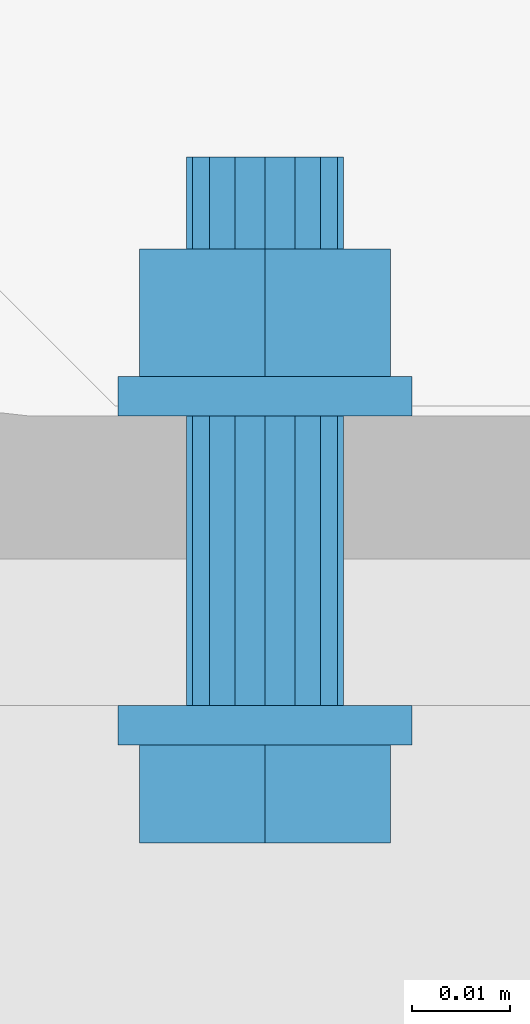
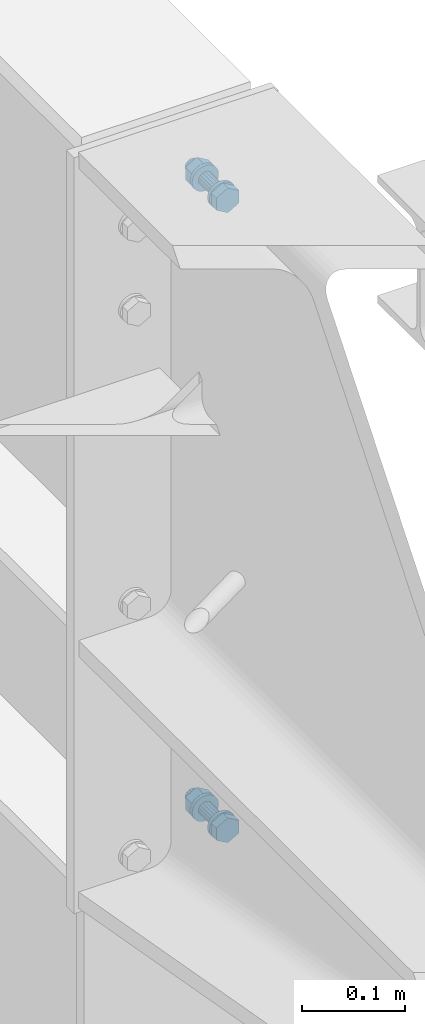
# Not in any storey, part 37 of 50: 2 mechanical fasteners.
"""IFC4 model written with IfcOpenShell, lengths in metres."""

from ifc_helpers import new_model, entity, si_unit, converted_unit, derived_unit, direction, origin, origin_with_axes, place, context, project, spatial, faceted_brep, element, save


model = new_model("IFC4")

# Units and contexts
model_context = context("Model", 3, precision=1e-05, world=origin(), true_north=direction((6.123233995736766e-17, 1.0)))
ifc_project = project(units=[si_unit("LENGTHUNIT", "METRE"), si_unit("AREAUNIT", "SQUARE_METRE"), converted_unit("PLANEANGLEUNIT", "DEGREE", entity("IfcPlaneAngleMeasure", 0.017453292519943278), si_unit("PLANEANGLEUNIT", "RADIAN"), dimensions=[0, 0, 0, 0, 0, 0, 0]), si_unit("VOLUMEUNIT", "CUBIC_METRE"), derived_unit("THERMALTRANSMITTANCEUNIT", [(si_unit("MASSUNIT", "GRAM", prefix="KILO"), 1), (si_unit("THERMODYNAMICTEMPERATUREUNIT", "KELVIN"), -1), (si_unit("TIMEUNIT", "SECOND"), -3)])], contexts=[model_context])

# Site
site_placement = place(None, origin())
site = spatial("IfcSite", under=ifc_project, at=site_placement, Name="Default", CompositionType="ELEMENT")

# Mechanical fasteners
mechanical_fastener_1_placement = place(site_placement, origin_with_axes())
element("IfcMechanicalFastener", 1, at=mechanical_fastener_1_placement, inside=site, ObjectType="Bolt#1", NominalDiameter=0.016, NominalLength=0.06, context=model_context, shape_type="Brep", body=[
    faceted_brep([(13.225144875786, 17.685767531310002, 5.895), (13.225144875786, 17.68976753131, 5.895), (13.22543309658, 17.68976753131, 5.89207364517), (13.22543309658, 17.685767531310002, 5.89207364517), (13.226286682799, 17.68976753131, 5.889259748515), (13.226286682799, 17.685767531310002, 5.889259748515), (13.227672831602, 17.68976753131, 5.886666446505), (13.227672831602, 17.685767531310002, 5.886666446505), (13.229538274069, 17.68976753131, 5.884393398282), (13.229538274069, 17.685767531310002, 5.884393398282), (13.231811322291, 17.68976753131, 5.882527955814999), (13.231811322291, 17.685767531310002, 5.882527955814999), (13.234404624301, 17.68976753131, 5.881141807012), (13.234404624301, 17.685767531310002, 5.881141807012), (13.237218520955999, 17.68976753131, 5.880288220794), (13.237218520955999, 17.685767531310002, 5.880288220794), (13.240144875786, 17.68976753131, 5.88), (13.240144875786, 17.685767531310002, 5.88), (13.243071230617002, 17.68976753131, 5.880288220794), (13.243071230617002, 17.685767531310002, 5.880288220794), (13.245885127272, 17.68976753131, 5.881141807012), (13.245885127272, 17.685767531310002, 5.881141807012), (13.248478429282, 17.68976753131, 5.882527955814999), (13.248478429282, 17.685767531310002, 5.882527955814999), (13.250751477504, 17.68976753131, 5.884393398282), (13.250751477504, 17.685767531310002, 5.884393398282), (13.252616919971, 17.68976753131, 5.886666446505), (13.252616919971, 17.685767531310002, 5.886666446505), (13.254003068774, 17.68976753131, 5.889259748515), (13.254003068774, 17.685767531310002, 5.889259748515), (13.254856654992, 17.68976753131, 5.89207364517), (13.254856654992, 17.685767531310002, 5.89207364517), (13.255144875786, 17.68976753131, 5.895), (13.255144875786, 17.685767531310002, 5.895), (13.254856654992, 17.68976753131, 5.897926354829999), (13.254856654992, 17.685767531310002, 5.897926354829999), (13.254003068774, 17.68976753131, 5.900740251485), (13.254003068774, 17.685767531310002, 5.900740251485), (13.252616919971, 17.68976753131, 5.903333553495), (13.252616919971, 17.685767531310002, 5.903333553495), (13.250751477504, 17.68976753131, 5.9056066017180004), (13.250751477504, 17.685767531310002, 5.9056066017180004), (13.248478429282, 17.68976753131, 5.907472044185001), (13.248478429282, 17.685767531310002, 5.907472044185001), (13.245885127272, 17.68976753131, 5.908858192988), (13.245885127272, 17.685767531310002, 5.908858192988), (13.243071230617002, 17.68976753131, 5.909711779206), (13.243071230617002, 17.685767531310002, 5.909711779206), (13.240144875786, 17.68976753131, 5.91), (13.240144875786, 17.685767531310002, 5.91), (13.237218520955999, 17.68976753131, 5.909711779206), (13.237218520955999, 17.685767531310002, 5.909711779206), (13.234404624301, 17.68976753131, 5.908858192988), (13.234404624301, 17.685767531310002, 5.908858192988), (13.231811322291, 17.68976753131, 5.907472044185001), (13.231811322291, 17.685767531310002, 5.907472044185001), (13.229538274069, 17.68976753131, 5.9056066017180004), (13.229538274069, 17.685767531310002, 5.9056066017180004), (13.227672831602, 17.68976753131, 5.903333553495), (13.227672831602, 17.685767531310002, 5.903333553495), (13.226286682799, 17.68976753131, 5.900740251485), (13.226286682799, 17.685767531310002, 5.900740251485), (13.22543309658, 17.68976753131, 5.897926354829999), (13.22543309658, 17.685767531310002, 5.897926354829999)], [[[0, 1, 2, 3]], [[3, 2, 4, 5]], [[5, 4, 6, 7]], [[7, 6, 8, 9]], [[9, 8, 10, 11]], [[11, 10, 12, 13]], [[13, 12, 14, 15]], [[15, 14, 16, 17]], [[17, 16, 18, 19]], [[19, 18, 20, 21]], [[21, 20, 22, 23]], [[23, 22, 24, 25]], [[25, 24, 26, 27]], [[27, 26, 28, 29]], [[29, 28, 30, 31]], [[31, 30, 32, 33]], [[33, 32, 34, 35]], [[35, 34, 36, 37]], [[37, 36, 38, 39]], [[39, 38, 40, 41]], [[41, 40, 42, 43]], [[43, 42, 44, 45]], [[45, 44, 46, 47]], [[47, 46, 48, 49]], [[49, 48, 50, 51]], [[51, 50, 52, 53]], [[53, 52, 54, 55]], [[55, 54, 56, 57]], [[57, 56, 58, 59]], [[59, 58, 60, 61]], [[61, 60, 62, 63]], [[63, 62, 1, 0]], [[0, 3, 5, 7, 9, 11, 13, 15, 17, 19, 21, 23, 25, 27, 29, 31, 33, 35, 37, 39, 41, 43, 45, 47, 49, 51, 53, 55, 57, 59, 61, 63]], [[1, 62, 60, 58, 56, 54, 52, 50, 48, 46, 44, 42, 40, 38, 36, 34, 32, 30, 28, 26, 24, 22, 20, 18, 16, 14, 12, 10, 8, 6, 4, 2]]]),
    faceted_brep([(13.252944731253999, 17.685767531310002, 5.88761), (13.252944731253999, 17.67576753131, 5.88761), (13.240144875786, 17.67576753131, 5.8802200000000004), (13.240144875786, 17.685767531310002, 5.8802200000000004), (13.227345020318, 17.67576753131, 5.88761), (13.227345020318, 17.685767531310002, 5.88761), (13.227345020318, 17.67576753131, 5.9023900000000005), (13.227345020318, 17.685767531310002, 5.9023900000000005), (13.240144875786, 17.67576753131, 5.90978), (13.240144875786, 17.685767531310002, 5.90978), (13.252944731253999, 17.67576753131, 5.9023900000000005), (13.252944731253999, 17.685767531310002, 5.9023900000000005)], [[[0, 1, 2, 3]], [[3, 2, 4, 5]], [[5, 4, 6, 7]], [[7, 6, 8, 9]], [[9, 8, 10, 11]], [[11, 10, 1, 0]], [[4, 2, 1, 10, 8, 6]], [[0, 3, 5, 7, 9, 11]]]),
    faceted_brep([(13.232144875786, 17.68976753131, 5.895), (13.232144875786, 17.71936753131, 5.895), (13.232753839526, 17.71936753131, 5.891938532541), (13.232753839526, 17.68976753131, 5.891938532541), (13.234488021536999, 17.71936753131, 5.889343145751), (13.234488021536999, 17.68976753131, 5.889343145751), (13.237083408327, 17.71936753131, 5.88760896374), (13.237083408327, 17.68976753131, 5.88760896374), (13.240144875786, 17.71936753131, 5.887), (13.240144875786, 17.68976753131, 5.887), (13.243206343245, 17.71936753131, 5.88760896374), (13.243206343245, 17.68976753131, 5.88760896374), (13.245801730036, 17.71936753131, 5.889343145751), (13.245801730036, 17.68976753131, 5.889343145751), (13.247535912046, 17.71936753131, 5.891938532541), (13.247535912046, 17.68976753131, 5.891938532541), (13.248144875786, 17.71936753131, 5.895), (13.248144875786, 17.68976753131, 5.895), (13.247535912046, 17.71936753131, 5.898061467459), (13.247535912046, 17.68976753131, 5.898061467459), (13.245801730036, 17.71936753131, 5.900656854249), (13.245801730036, 17.68976753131, 5.900656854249), (13.243206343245, 17.71936753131, 5.90239103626), (13.243206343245, 17.68976753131, 5.90239103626), (13.240144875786, 17.71936753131, 5.903), (13.240144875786, 17.68976753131, 5.903), (13.237083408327, 17.71936753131, 5.90239103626), (13.237083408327, 17.68976753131, 5.90239103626), (13.234488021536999, 17.71936753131, 5.900656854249), (13.234488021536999, 17.68976753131, 5.900656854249), (13.232753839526, 17.71936753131, 5.898061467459), (13.232753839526, 17.68976753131, 5.898061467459)], [[[0, 1, 2, 3]], [[3, 2, 4, 5]], [[5, 4, 6, 7]], [[7, 6, 8, 9]], [[9, 8, 10, 11]], [[11, 10, 12, 13]], [[13, 12, 14, 15]], [[15, 14, 16, 17]], [[17, 16, 18, 19]], [[19, 18, 20, 21]], [[21, 20, 22, 23]], [[23, 22, 24, 25]], [[25, 24, 26, 27]], [[27, 26, 28, 29]], [[29, 28, 30, 31]], [[31, 30, 1, 0]], [[0, 3, 5, 7, 9, 11, 13, 15, 17, 19, 21, 23, 25, 27, 29, 31]], [[1, 30, 28, 26, 24, 22, 20, 18, 16, 14, 12, 10, 8, 6, 4, 2]]]),
    faceted_brep([(13.225144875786, 17.71936753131, 5.895), (13.225144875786, 17.72336753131, 5.895), (13.22543309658, 17.72336753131, 5.89207364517), (13.22543309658, 17.71936753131, 5.89207364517), (13.226286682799, 17.72336753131, 5.889259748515), (13.226286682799, 17.71936753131, 5.889259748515), (13.227672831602, 17.72336753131, 5.886666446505), (13.227672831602, 17.71936753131, 5.886666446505), (13.229538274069, 17.72336753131, 5.884393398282), (13.229538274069, 17.71936753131, 5.884393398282), (13.231811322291, 17.72336753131, 5.882527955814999), (13.231811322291, 17.71936753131, 5.882527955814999), (13.234404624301, 17.72336753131, 5.881141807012), (13.234404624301, 17.71936753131, 5.881141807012), (13.237218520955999, 17.72336753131, 5.880288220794), (13.237218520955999, 17.71936753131, 5.880288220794), (13.240144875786, 17.72336753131, 5.88), (13.240144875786, 17.71936753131, 5.88), (13.243071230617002, 17.72336753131, 5.880288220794), (13.243071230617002, 17.71936753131, 5.880288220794), (13.245885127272, 17.72336753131, 5.881141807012), (13.245885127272, 17.71936753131, 5.881141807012), (13.248478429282, 17.72336753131, 5.882527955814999), (13.248478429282, 17.71936753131, 5.882527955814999), (13.250751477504, 17.72336753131, 5.884393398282), (13.250751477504, 17.71936753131, 5.884393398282), (13.252616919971, 17.72336753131, 5.886666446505), (13.252616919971, 17.71936753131, 5.886666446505), (13.254003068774, 17.72336753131, 5.889259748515), (13.254003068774, 17.71936753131, 5.889259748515), (13.254856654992, 17.72336753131, 5.89207364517), (13.254856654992, 17.71936753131, 5.89207364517), (13.255144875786, 17.72336753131, 5.895), (13.255144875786, 17.71936753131, 5.895), (13.254856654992, 17.72336753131, 5.897926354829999), (13.254856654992, 17.71936753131, 5.897926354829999), (13.254003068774, 17.72336753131, 5.900740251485), (13.254003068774, 17.71936753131, 5.900740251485), (13.252616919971, 17.72336753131, 5.903333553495), (13.252616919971, 17.71936753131, 5.903333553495), (13.250751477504, 17.72336753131, 5.9056066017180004), (13.250751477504, 17.71936753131, 5.9056066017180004), (13.248478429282, 17.72336753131, 5.907472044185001), (13.248478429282, 17.71936753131, 5.907472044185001), (13.245885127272, 17.72336753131, 5.908858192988), (13.245885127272, 17.71936753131, 5.908858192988), (13.243071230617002, 17.72336753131, 5.909711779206), (13.243071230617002, 17.71936753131, 5.909711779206), (13.240144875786, 17.72336753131, 5.91), (13.240144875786, 17.71936753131, 5.91), (13.237218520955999, 17.72336753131, 5.909711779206), (13.237218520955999, 17.71936753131, 5.909711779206), (13.234404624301, 17.72336753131, 5.908858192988), (13.234404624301, 17.71936753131, 5.908858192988), (13.231811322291, 17.72336753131, 5.907472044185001), (13.231811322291, 17.71936753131, 5.907472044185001), (13.229538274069, 17.72336753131, 5.9056066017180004), (13.229538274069, 17.71936753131, 5.9056066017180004), (13.227672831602, 17.72336753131, 5.903333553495), (13.227672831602, 17.71936753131, 5.903333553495), (13.226286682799, 17.72336753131, 5.900740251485), (13.226286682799, 17.71936753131, 5.900740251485), (13.22543309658, 17.72336753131, 5.897926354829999), (13.22543309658, 17.71936753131, 5.897926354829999)], [[[0, 1, 2, 3]], [[3, 2, 4, 5]], [[5, 4, 6, 7]], [[7, 6, 8, 9]], [[9, 8, 10, 11]], [[11, 10, 12, 13]], [[13, 12, 14, 15]], [[15, 14, 16, 17]], [[17, 16, 18, 19]], [[19, 18, 20, 21]], [[21, 20, 22, 23]], [[23, 22, 24, 25]], [[25, 24, 26, 27]], [[27, 26, 28, 29]], [[29, 28, 30, 31]], [[31, 30, 32, 33]], [[33, 32, 34, 35]], [[35, 34, 36, 37]], [[37, 36, 38, 39]], [[39, 38, 40, 41]], [[41, 40, 42, 43]], [[43, 42, 44, 45]], [[45, 44, 46, 47]], [[47, 46, 48, 49]], [[49, 48, 50, 51]], [[51, 50, 52, 53]], [[53, 52, 54, 55]], [[55, 54, 56, 57]], [[57, 56, 58, 59]], [[59, 58, 60, 61]], [[61, 60, 62, 63]], [[63, 62, 1, 0]], [[0, 3, 5, 7, 9, 11, 13, 15, 17, 19, 21, 23, 25, 27, 29, 31, 33, 35, 37, 39, 41, 43, 45, 47, 49, 51, 53, 55, 57, 59, 61, 63]], [[1, 62, 60, 58, 56, 54, 52, 50, 48, 46, 44, 42, 40, 38, 36, 34, 32, 30, 28, 26, 24, 22, 20, 18, 16, 14, 12, 10, 8, 6, 4, 2]]]),
    faceted_brep([(13.252944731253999, 17.736367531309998, 5.88761), (13.252944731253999, 17.72336753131, 5.88761), (13.240144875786, 17.72336753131, 5.8802200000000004), (13.240144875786, 17.736367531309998, 5.8802200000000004), (13.227345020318, 17.72336753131, 5.88761), (13.227345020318, 17.736367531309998, 5.88761), (13.227345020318, 17.72336753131, 5.9023900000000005), (13.227345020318, 17.736367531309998, 5.9023900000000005), (13.240144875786, 17.72336753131, 5.90978), (13.240144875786, 17.736367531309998, 5.90978), (13.252944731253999, 17.72336753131, 5.9023900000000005), (13.252944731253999, 17.736367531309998, 5.9023900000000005)], [[[0, 1, 2, 3]], [[3, 2, 4, 5]], [[5, 4, 6, 7]], [[7, 6, 8, 9]], [[9, 8, 10, 11]], [[11, 10, 1, 0]], [[4, 2, 1, 10, 8, 6]], [[0, 3, 5, 7, 9, 11]]]),
    faceted_brep([(13.232144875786, 17.736367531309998, 5.895), (13.232144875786, 17.74576753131, 5.895), (13.232753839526, 17.74576753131, 5.891938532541), (13.232753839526, 17.736367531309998, 5.891938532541), (13.234488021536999, 17.74576753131, 5.889343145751), (13.234488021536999, 17.736367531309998, 5.889343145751), (13.237083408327, 17.74576753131, 5.88760896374), (13.237083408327, 17.736367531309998, 5.88760896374), (13.240144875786, 17.74576753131, 5.887), (13.240144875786, 17.736367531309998, 5.887), (13.243206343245, 17.74576753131, 5.88760896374), (13.243206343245, 17.736367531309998, 5.88760896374), (13.245801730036, 17.74576753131, 5.889343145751), (13.245801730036, 17.736367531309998, 5.889343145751), (13.247535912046, 17.74576753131, 5.891938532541), (13.247535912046, 17.736367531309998, 5.891938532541), (13.248144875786, 17.74576753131, 5.895), (13.248144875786, 17.736367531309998, 5.895), (13.247535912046, 17.74576753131, 5.898061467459), (13.247535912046, 17.736367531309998, 5.898061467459), (13.245801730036, 17.74576753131, 5.900656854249), (13.245801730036, 17.736367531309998, 5.900656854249), (13.243206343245, 17.74576753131, 5.90239103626), (13.243206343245, 17.736367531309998, 5.90239103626), (13.240144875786, 17.74576753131, 5.903), (13.240144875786, 17.736367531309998, 5.903), (13.237083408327, 17.74576753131, 5.90239103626), (13.237083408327, 17.736367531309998, 5.90239103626), (13.234488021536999, 17.74576753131, 5.900656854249), (13.234488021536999, 17.736367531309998, 5.900656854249), (13.232753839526, 17.74576753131, 5.898061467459), (13.232753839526, 17.736367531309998, 5.898061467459)], [[[0, 1, 2, 3]], [[3, 2, 4, 5]], [[5, 4, 6, 7]], [[7, 6, 8, 9]], [[9, 8, 10, 11]], [[11, 10, 12, 13]], [[13, 12, 14, 15]], [[15, 14, 16, 17]], [[17, 16, 18, 19]], [[19, 18, 20, 21]], [[21, 20, 22, 23]], [[23, 22, 24, 25]], [[25, 24, 26, 27]], [[27, 26, 28, 29]], [[29, 28, 30, 31]], [[31, 30, 1, 0]], [[0, 3, 5, 7, 9, 11, 13, 15, 17, 19, 21, 23, 25, 27, 29, 31]], [[1, 30, 28, 26, 24, 22, 20, 18, 16, 14, 12, 10, 8, 6, 4, 2]]]),
])
mechanical_fastener_2_placement = place(site_placement, origin_with_axes())
element("IfcMechanicalFastener", 2, at=mechanical_fastener_2_placement, inside=site, ObjectType="Bolt#2", NominalDiameter=0.016, NominalLength=0.06, context=model_context, shape_type="Brep", body=[
    faceted_brep([(13.225144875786, 17.685767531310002, 5.145), (13.225144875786, 17.68976753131, 5.145), (13.22543309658, 17.68976753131, 5.14207364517), (13.22543309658, 17.685767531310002, 5.14207364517), (13.226286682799, 17.68976753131, 5.139259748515), (13.226286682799, 17.685767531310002, 5.139259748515), (13.227672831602, 17.68976753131, 5.136666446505), (13.227672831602, 17.685767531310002, 5.136666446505), (13.229538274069, 17.68976753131, 5.134393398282), (13.229538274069, 17.685767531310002, 5.134393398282), (13.231811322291, 17.68976753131, 5.132527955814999), (13.231811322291, 17.685767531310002, 5.132527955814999), (13.234404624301, 17.68976753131, 5.131141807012), (13.234404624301, 17.685767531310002, 5.131141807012), (13.237218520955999, 17.68976753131, 5.130288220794), (13.237218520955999, 17.685767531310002, 5.130288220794), (13.240144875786, 17.68976753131, 5.13), (13.240144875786, 17.685767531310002, 5.13), (13.243071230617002, 17.68976753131, 5.130288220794), (13.243071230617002, 17.685767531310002, 5.130288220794), (13.245885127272, 17.68976753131, 5.131141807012), (13.245885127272, 17.685767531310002, 5.131141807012), (13.248478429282, 17.68976753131, 5.132527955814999), (13.248478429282, 17.685767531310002, 5.132527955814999), (13.250751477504, 17.68976753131, 5.134393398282), (13.250751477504, 17.685767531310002, 5.134393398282), (13.252616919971, 17.68976753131, 5.136666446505), (13.252616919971, 17.685767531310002, 5.136666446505), (13.254003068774, 17.68976753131, 5.139259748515), (13.254003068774, 17.685767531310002, 5.139259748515), (13.254856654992, 17.68976753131, 5.14207364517), (13.254856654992, 17.685767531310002, 5.14207364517), (13.255144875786, 17.68976753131, 5.145), (13.255144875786, 17.685767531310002, 5.145), (13.254856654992, 17.68976753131, 5.147926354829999), (13.254856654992, 17.685767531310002, 5.147926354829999), (13.254003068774, 17.68976753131, 5.150740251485), (13.254003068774, 17.685767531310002, 5.150740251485), (13.252616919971, 17.68976753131, 5.153333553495), (13.252616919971, 17.685767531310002, 5.153333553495), (13.250751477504, 17.68976753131, 5.1556066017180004), (13.250751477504, 17.685767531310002, 5.1556066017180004), (13.248478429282, 17.68976753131, 5.157472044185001), (13.248478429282, 17.685767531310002, 5.157472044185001), (13.245885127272, 17.68976753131, 5.158858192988), (13.245885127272, 17.685767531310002, 5.158858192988), (13.243071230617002, 17.68976753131, 5.159711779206), (13.243071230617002, 17.685767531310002, 5.159711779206), (13.240144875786, 17.68976753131, 5.16), (13.240144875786, 17.685767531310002, 5.16), (13.237218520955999, 17.68976753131, 5.159711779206), (13.237218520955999, 17.685767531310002, 5.159711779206), (13.234404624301, 17.68976753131, 5.158858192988), (13.234404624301, 17.685767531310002, 5.158858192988), (13.231811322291, 17.68976753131, 5.157472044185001), (13.231811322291, 17.685767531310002, 5.157472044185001), (13.229538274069, 17.68976753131, 5.1556066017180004), (13.229538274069, 17.685767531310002, 5.1556066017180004), (13.227672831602, 17.68976753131, 5.153333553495), (13.227672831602, 17.685767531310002, 5.153333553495), (13.226286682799, 17.68976753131, 5.150740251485), (13.226286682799, 17.685767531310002, 5.150740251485), (13.22543309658, 17.68976753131, 5.147926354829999), (13.22543309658, 17.685767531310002, 5.147926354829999)], [[[0, 1, 2, 3]], [[3, 2, 4, 5]], [[5, 4, 6, 7]], [[7, 6, 8, 9]], [[9, 8, 10, 11]], [[11, 10, 12, 13]], [[13, 12, 14, 15]], [[15, 14, 16, 17]], [[17, 16, 18, 19]], [[19, 18, 20, 21]], [[21, 20, 22, 23]], [[23, 22, 24, 25]], [[25, 24, 26, 27]], [[27, 26, 28, 29]], [[29, 28, 30, 31]], [[31, 30, 32, 33]], [[33, 32, 34, 35]], [[35, 34, 36, 37]], [[37, 36, 38, 39]], [[39, 38, 40, 41]], [[41, 40, 42, 43]], [[43, 42, 44, 45]], [[45, 44, 46, 47]], [[47, 46, 48, 49]], [[49, 48, 50, 51]], [[51, 50, 52, 53]], [[53, 52, 54, 55]], [[55, 54, 56, 57]], [[57, 56, 58, 59]], [[59, 58, 60, 61]], [[61, 60, 62, 63]], [[63, 62, 1, 0]], [[0, 3, 5, 7, 9, 11, 13, 15, 17, 19, 21, 23, 25, 27, 29, 31, 33, 35, 37, 39, 41, 43, 45, 47, 49, 51, 53, 55, 57, 59, 61, 63]], [[1, 62, 60, 58, 56, 54, 52, 50, 48, 46, 44, 42, 40, 38, 36, 34, 32, 30, 28, 26, 24, 22, 20, 18, 16, 14, 12, 10, 8, 6, 4, 2]]]),
    faceted_brep([(13.252944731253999, 17.685767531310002, 5.13761), (13.252944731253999, 17.67576753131, 5.13761), (13.240144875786, 17.67576753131, 5.1302200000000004), (13.240144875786, 17.685767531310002, 5.1302200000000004), (13.227345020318, 17.67576753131, 5.13761), (13.227345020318, 17.685767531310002, 5.13761), (13.227345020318, 17.67576753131, 5.1523900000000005), (13.227345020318, 17.685767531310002, 5.1523900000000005), (13.240144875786, 17.67576753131, 5.15978), (13.240144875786, 17.685767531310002, 5.15978), (13.252944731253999, 17.67576753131, 5.1523900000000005), (13.252944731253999, 17.685767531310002, 5.1523900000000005)], [[[0, 1, 2, 3]], [[3, 2, 4, 5]], [[5, 4, 6, 7]], [[7, 6, 8, 9]], [[9, 8, 10, 11]], [[11, 10, 1, 0]], [[4, 2, 1, 10, 8, 6]], [[0, 3, 5, 7, 9, 11]]]),
    faceted_brep([(13.232144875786, 17.68976753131, 5.145), (13.232144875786, 17.71936753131, 5.145), (13.232753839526, 17.71936753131, 5.141938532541), (13.232753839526, 17.68976753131, 5.141938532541), (13.234488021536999, 17.71936753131, 5.139343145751), (13.234488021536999, 17.68976753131, 5.139343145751), (13.237083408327, 17.71936753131, 5.13760896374), (13.237083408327, 17.68976753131, 5.13760896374), (13.240144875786, 17.71936753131, 5.137), (13.240144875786, 17.68976753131, 5.137), (13.243206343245, 17.71936753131, 5.13760896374), (13.243206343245, 17.68976753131, 5.13760896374), (13.245801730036, 17.71936753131, 5.139343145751), (13.245801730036, 17.68976753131, 5.139343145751), (13.247535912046, 17.71936753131, 5.141938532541), (13.247535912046, 17.68976753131, 5.141938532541), (13.248144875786, 17.71936753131, 5.145), (13.248144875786, 17.68976753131, 5.145), (13.247535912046, 17.71936753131, 5.148061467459), (13.247535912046, 17.68976753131, 5.148061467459), (13.245801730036, 17.71936753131, 5.150656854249), (13.245801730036, 17.68976753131, 5.150656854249), (13.243206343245, 17.71936753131, 5.15239103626), (13.243206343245, 17.68976753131, 5.15239103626), (13.240144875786, 17.71936753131, 5.153), (13.240144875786, 17.68976753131, 5.153), (13.237083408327, 17.71936753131, 5.15239103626), (13.237083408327, 17.68976753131, 5.15239103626), (13.234488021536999, 17.71936753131, 5.150656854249), (13.234488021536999, 17.68976753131, 5.150656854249), (13.232753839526, 17.71936753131, 5.148061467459), (13.232753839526, 17.68976753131, 5.148061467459)], [[[0, 1, 2, 3]], [[3, 2, 4, 5]], [[5, 4, 6, 7]], [[7, 6, 8, 9]], [[9, 8, 10, 11]], [[11, 10, 12, 13]], [[13, 12, 14, 15]], [[15, 14, 16, 17]], [[17, 16, 18, 19]], [[19, 18, 20, 21]], [[21, 20, 22, 23]], [[23, 22, 24, 25]], [[25, 24, 26, 27]], [[27, 26, 28, 29]], [[29, 28, 30, 31]], [[31, 30, 1, 0]], [[0, 3, 5, 7, 9, 11, 13, 15, 17, 19, 21, 23, 25, 27, 29, 31]], [[1, 30, 28, 26, 24, 22, 20, 18, 16, 14, 12, 10, 8, 6, 4, 2]]]),
    faceted_brep([(13.225144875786, 17.71936753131, 5.145), (13.225144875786, 17.72336753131, 5.145), (13.22543309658, 17.72336753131, 5.14207364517), (13.22543309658, 17.71936753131, 5.14207364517), (13.226286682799, 17.72336753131, 5.139259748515), (13.226286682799, 17.71936753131, 5.139259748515), (13.227672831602, 17.72336753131, 5.136666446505), (13.227672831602, 17.71936753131, 5.136666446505), (13.229538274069, 17.72336753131, 5.134393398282), (13.229538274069, 17.71936753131, 5.134393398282), (13.231811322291, 17.72336753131, 5.132527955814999), (13.231811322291, 17.71936753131, 5.132527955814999), (13.234404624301, 17.72336753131, 5.131141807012), (13.234404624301, 17.71936753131, 5.131141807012), (13.237218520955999, 17.72336753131, 5.130288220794), (13.237218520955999, 17.71936753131, 5.130288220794), (13.240144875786, 17.72336753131, 5.13), (13.240144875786, 17.71936753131, 5.13), (13.243071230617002, 17.72336753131, 5.130288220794), (13.243071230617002, 17.71936753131, 5.130288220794), (13.245885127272, 17.72336753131, 5.131141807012), (13.245885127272, 17.71936753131, 5.131141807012), (13.248478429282, 17.72336753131, 5.132527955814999), (13.248478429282, 17.71936753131, 5.132527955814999), (13.250751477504, 17.72336753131, 5.134393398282), (13.250751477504, 17.71936753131, 5.134393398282), (13.252616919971, 17.72336753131, 5.136666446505), (13.252616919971, 17.71936753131, 5.136666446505), (13.254003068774, 17.72336753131, 5.139259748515), (13.254003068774, 17.71936753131, 5.139259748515), (13.254856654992, 17.72336753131, 5.14207364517), (13.254856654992, 17.71936753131, 5.14207364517), (13.255144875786, 17.72336753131, 5.145), (13.255144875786, 17.71936753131, 5.145), (13.254856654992, 17.72336753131, 5.147926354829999), (13.254856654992, 17.71936753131, 5.147926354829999), (13.254003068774, 17.72336753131, 5.150740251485), (13.254003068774, 17.71936753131, 5.150740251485), (13.252616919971, 17.72336753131, 5.153333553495), (13.252616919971, 17.71936753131, 5.153333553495), (13.250751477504, 17.72336753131, 5.1556066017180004), (13.250751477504, 17.71936753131, 5.1556066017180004), (13.248478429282, 17.72336753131, 5.157472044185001), (13.248478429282, 17.71936753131, 5.157472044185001), (13.245885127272, 17.72336753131, 5.158858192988), (13.245885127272, 17.71936753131, 5.158858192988), (13.243071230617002, 17.72336753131, 5.159711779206), (13.243071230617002, 17.71936753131, 5.159711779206), (13.240144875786, 17.72336753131, 5.16), (13.240144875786, 17.71936753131, 5.16), (13.237218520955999, 17.72336753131, 5.159711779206), (13.237218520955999, 17.71936753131, 5.159711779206), (13.234404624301, 17.72336753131, 5.158858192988), (13.234404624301, 17.71936753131, 5.158858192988), (13.231811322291, 17.72336753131, 5.157472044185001), (13.231811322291, 17.71936753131, 5.157472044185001), (13.229538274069, 17.72336753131, 5.1556066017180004), (13.229538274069, 17.71936753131, 5.1556066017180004), (13.227672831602, 17.72336753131, 5.153333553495), (13.227672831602, 17.71936753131, 5.153333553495), (13.226286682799, 17.72336753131, 5.150740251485), (13.226286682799, 17.71936753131, 5.150740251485), (13.22543309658, 17.72336753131, 5.147926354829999), (13.22543309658, 17.71936753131, 5.147926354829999)], [[[0, 1, 2, 3]], [[3, 2, 4, 5]], [[5, 4, 6, 7]], [[7, 6, 8, 9]], [[9, 8, 10, 11]], [[11, 10, 12, 13]], [[13, 12, 14, 15]], [[15, 14, 16, 17]], [[17, 16, 18, 19]], [[19, 18, 20, 21]], [[21, 20, 22, 23]], [[23, 22, 24, 25]], [[25, 24, 26, 27]], [[27, 26, 28, 29]], [[29, 28, 30, 31]], [[31, 30, 32, 33]], [[33, 32, 34, 35]], [[35, 34, 36, 37]], [[37, 36, 38, 39]], [[39, 38, 40, 41]], [[41, 40, 42, 43]], [[43, 42, 44, 45]], [[45, 44, 46, 47]], [[47, 46, 48, 49]], [[49, 48, 50, 51]], [[51, 50, 52, 53]], [[53, 52, 54, 55]], [[55, 54, 56, 57]], [[57, 56, 58, 59]], [[59, 58, 60, 61]], [[61, 60, 62, 63]], [[63, 62, 1, 0]], [[0, 3, 5, 7, 9, 11, 13, 15, 17, 19, 21, 23, 25, 27, 29, 31, 33, 35, 37, 39, 41, 43, 45, 47, 49, 51, 53, 55, 57, 59, 61, 63]], [[1, 62, 60, 58, 56, 54, 52, 50, 48, 46, 44, 42, 40, 38, 36, 34, 32, 30, 28, 26, 24, 22, 20, 18, 16, 14, 12, 10, 8, 6, 4, 2]]]),
    faceted_brep([(13.252944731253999, 17.736367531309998, 5.13761), (13.252944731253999, 17.72336753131, 5.13761), (13.240144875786, 17.72336753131, 5.1302200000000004), (13.240144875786, 17.736367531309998, 5.1302200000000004), (13.227345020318, 17.72336753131, 5.13761), (13.227345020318, 17.736367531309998, 5.13761), (13.227345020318, 17.72336753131, 5.1523900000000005), (13.227345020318, 17.736367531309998, 5.1523900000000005), (13.240144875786, 17.72336753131, 5.15978), (13.240144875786, 17.736367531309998, 5.15978), (13.252944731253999, 17.72336753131, 5.1523900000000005), (13.252944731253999, 17.736367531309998, 5.1523900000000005)], [[[0, 1, 2, 3]], [[3, 2, 4, 5]], [[5, 4, 6, 7]], [[7, 6, 8, 9]], [[9, 8, 10, 11]], [[11, 10, 1, 0]], [[4, 2, 1, 10, 8, 6]], [[0, 3, 5, 7, 9, 11]]]),
    faceted_brep([(13.232144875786, 17.736367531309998, 5.145), (13.232144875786, 17.74576753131, 5.145), (13.232753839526, 17.74576753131, 5.141938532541), (13.232753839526, 17.736367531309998, 5.141938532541), (13.234488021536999, 17.74576753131, 5.139343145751), (13.234488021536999, 17.736367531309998, 5.139343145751), (13.237083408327, 17.74576753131, 5.13760896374), (13.237083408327, 17.736367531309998, 5.13760896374), (13.240144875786, 17.74576753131, 5.137), (13.240144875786, 17.736367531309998, 5.137), (13.243206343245, 17.74576753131, 5.13760896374), (13.243206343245, 17.736367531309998, 5.13760896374), (13.245801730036, 17.74576753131, 5.139343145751), (13.245801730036, 17.736367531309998, 5.139343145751), (13.247535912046, 17.74576753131, 5.141938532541), (13.247535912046, 17.736367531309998, 5.141938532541), (13.248144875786, 17.74576753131, 5.145), (13.248144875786, 17.736367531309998, 5.145), (13.247535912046, 17.74576753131, 5.148061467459), (13.247535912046, 17.736367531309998, 5.148061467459), (13.245801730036, 17.74576753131, 5.150656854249), (13.245801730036, 17.736367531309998, 5.150656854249), (13.243206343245, 17.74576753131, 5.15239103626), (13.243206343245, 17.736367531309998, 5.15239103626), (13.240144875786, 17.74576753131, 5.153), (13.240144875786, 17.736367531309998, 5.153), (13.237083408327, 17.74576753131, 5.15239103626), (13.237083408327, 17.736367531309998, 5.15239103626), (13.234488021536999, 17.74576753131, 5.150656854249), (13.234488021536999, 17.736367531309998, 5.150656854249), (13.232753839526, 17.74576753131, 5.148061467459), (13.232753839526, 17.736367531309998, 5.148061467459)], [[[0, 1, 2, 3]], [[3, 2, 4, 5]], [[5, 4, 6, 7]], [[7, 6, 8, 9]], [[9, 8, 10, 11]], [[11, 10, 12, 13]], [[13, 12, 14, 15]], [[15, 14, 16, 17]], [[17, 16, 18, 19]], [[19, 18, 20, 21]], [[21, 20, 22, 23]], [[23, 22, 24, 25]], [[25, 24, 26, 27]], [[27, 26, 28, 29]], [[29, 28, 30, 31]], [[31, 30, 1, 0]], [[0, 3, 5, 7, 9, 11, 13, 15, 17, 19, 21, 23, 25, 27, 29, 31]], [[1, 30, 28, 26, 24, 22, 20, 18, 16, 14, 12, 10, 8, 6, 4, 2]]]),
])

save(model, "model.ifc")
